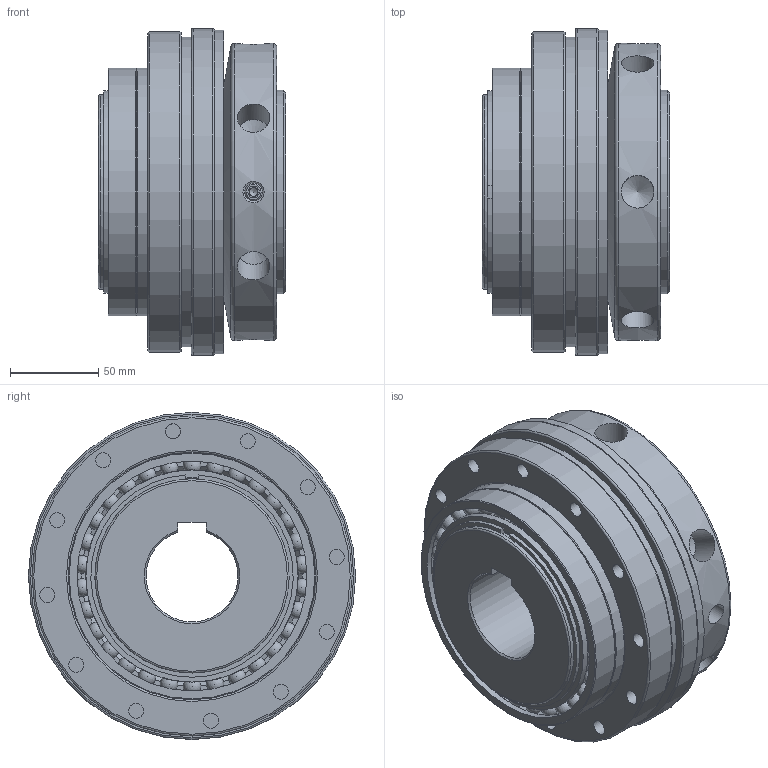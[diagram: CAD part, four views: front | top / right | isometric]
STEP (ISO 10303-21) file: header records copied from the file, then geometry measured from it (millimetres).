
FILE_DESCRIPTION( ( 'Unknown' ), '1' );
FILE_NAME( 'F:/JAKOB-STEP+IGES-Dateien/STEP-Dateien/SKW/SKW 2000.stp', 'Unknown', ( 'Unknown' ), ( 'Unknown' ), 'PSStep 10.1', 'Unknown', ' ' );
FILE_SCHEMA( ( 'AUTOMOTIVE_DESIGN { 1 0 10303 214 1 1 1 1 }' ) );
Length unit declared in the file: millimetre
Products named in the file (1): 20903298-90ｰ
Bounding box: 106 x 185 x 185 mm (x, y, z)
Volume: 1856724.9 mm3; surface area: 216013.6 mm2
Topology: 1 solids, 23 shells, 427 faces, 1426 edges, 950 vertices
Faces by surface type: torus 173, cylinder 109, plane 67, sphere 60, cone 18
Full cylindrical faces by diameter (mm): 8.5 x14, 10 x1, 12 x2, 18.5 x6, 107.7 x2, 109.8 x1, 110 x4, 114.98 x1, 115 x3, 116 x1, 120 x3, 130 x3, 140 x2, 168 x1, 175 x1, 181 x1, 183 x1, 185 x1
Entity records: 24514 total; most frequent: CARTESIAN_POINT 10898, ORIENTED_EDGE 2226, DIRECTION 1860, EDGE_CURVE 1113, AXIS2_PLACEMENT_3D 891, VERTEX_POINT 785, EDGE_LOOP 600, B_SPLINE_CURVE_WITH_KNOTS 572
